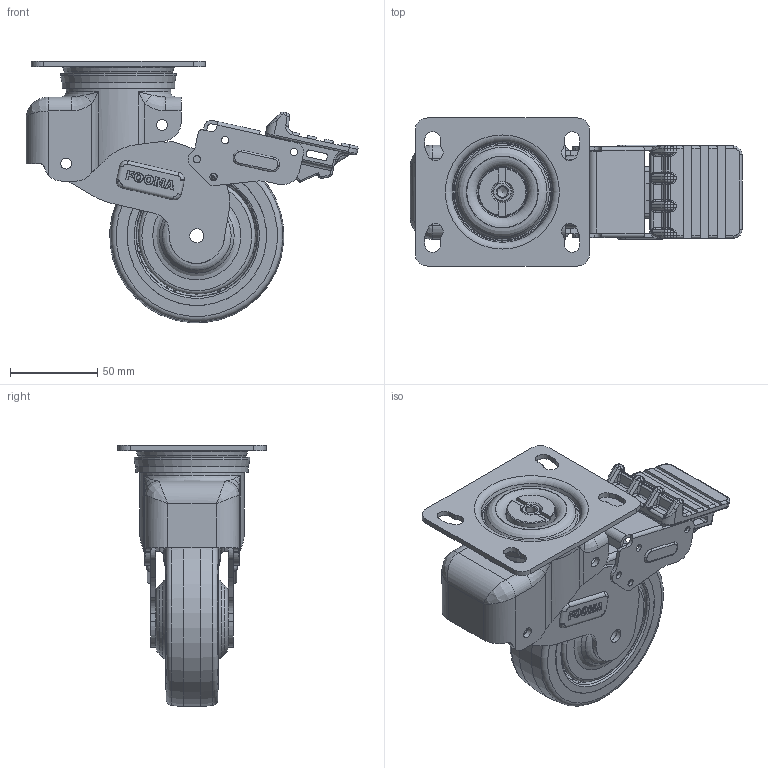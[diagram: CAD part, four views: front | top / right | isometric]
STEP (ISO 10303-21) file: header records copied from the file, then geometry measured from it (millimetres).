
FILE_DESCRIPTION((''),'2;1');
FILE_NAME('C:\Documents and Settings\Administrator\바탕 화면\3D STEP\G-SERIES\G-100\G-100B-SF.stp','2010-12-27T14:32:03',('Administrator'),(''),'Autodesk Inventor 2009','Autodesk Inventor 2009','');
FILE_SCHEMA(('AUTOMOTIVE_DESIGN { 1 0 10303 214 1 1 1 1 }'));
Length unit declared in the file: millimetre
Products named in the file (1): G-100B-SF
Bounding box: 190.5 x 85 x 149.96 mm (x, y, z)
Volume: 349491.3 mm3; surface area: 159482.1 mm2
Topology: 13 solids, 13 shells, 1952 faces, 5331 edges, 3386 vertices
Faces by surface type: bspline 673, plane 607, cylinder 505, torus 115, cone 38, sphere 14
Full cylindrical faces by diameter (mm): 4.2 x14, 5.153 x1, 6 x1, 6.2 x6, 8 x2, 8.2 x4, 12 x5, 13.4 x1, 18 x5, 22 x4, 28 x1, 31 x1, 33 x1, 34 x1, 36 x1, 43 x1, 50 x1, 51 x1, 51.2 x1, 52.8 x1, 54 x1, 54.27 x1, 60 x1, 63 x2, 64.5 x1, 66.4 x1, 67 x2, 100 x1
Entity records: 87066 total; most frequent: CARTESIAN_POINT 41664, ORIENTED_EDGE 9906, DIRECTION 8664, EDGE_CURVE 4953, AXIS2_PLACEMENT_3D 3399, VERTEX_POINT 3298, EDGE_LOOP 2297, FACE_OUTER_BOUND 1952
